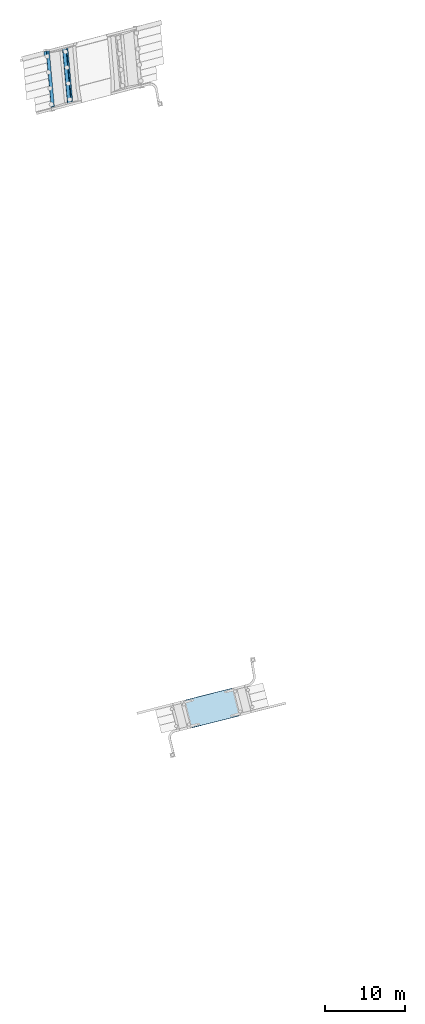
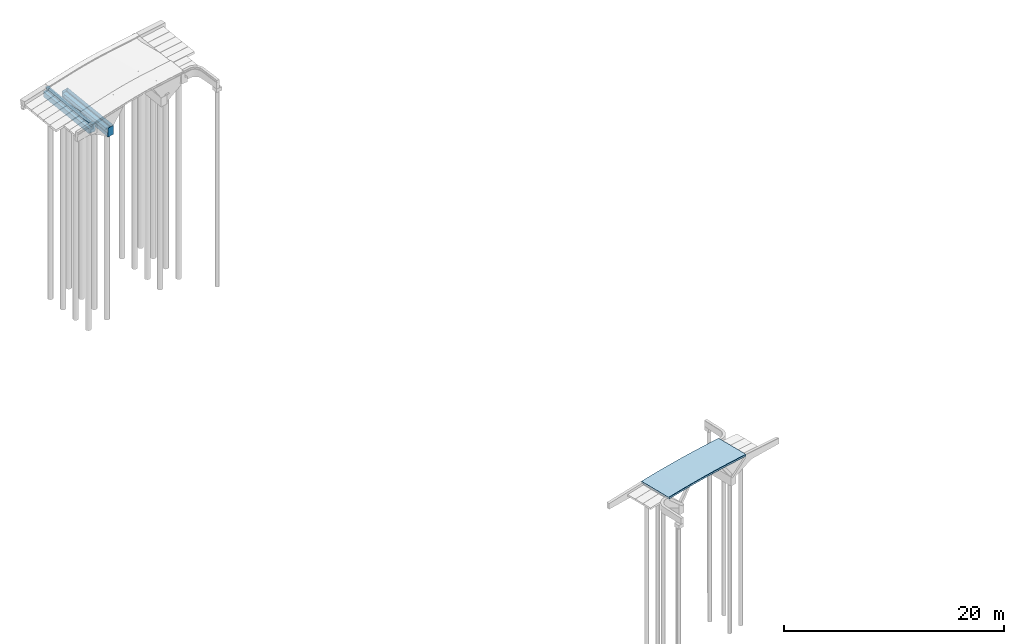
# One storey, part 7 of 15: 3 footings.
"""IFC2X3 building model written with IfcOpenShell, lengths in millimetres."""

from ifc_helpers import new_model, entity, si_unit, converted_unit, derived_unit, direction, frame, origin, place, context, subcontext, project, spatial, faceted_brep, material, element, save


model = new_model("IFC2X3")

# Units and contexts
model_context = context("Model", 3, precision=0.01, world=origin(), true_north=direction((6.12303176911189e-17, 1.0)))
body_context = subcontext(model_context, "Body", "Model", "MODEL_VIEW")
ifc_project = project(units=[si_unit("LENGTHUNIT", "METRE", prefix="MILLI"), si_unit("AREAUNIT", "SQUARE_METRE"), si_unit("VOLUMEUNIT", "CUBIC_METRE"), converted_unit("PLANEANGLEUNIT", "DEGREE", entity("IfcRatioMeasure", 0.0174532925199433), si_unit("PLANEANGLEUNIT", "RADIAN"), dimensions=[0, 0, 0, 0, 0, 0, 0]), si_unit("MASSUNIT", "GRAM", prefix="KILO"), derived_unit("MASSDENSITYUNIT", [(si_unit("MASSUNIT", "GRAM", prefix="KILO"), 1), (si_unit("LENGTHUNIT", "METRE"), -3)]), si_unit("TIMEUNIT", "SECOND"), si_unit("FREQUENCYUNIT", "HERTZ"), si_unit("THERMODYNAMICTEMPERATUREUNIT", "DEGREE_CELSIUS"), derived_unit("THERMALTRANSMITTANCEUNIT", [(si_unit("MASSUNIT", "GRAM", prefix="KILO"), 1), (si_unit("THERMODYNAMICTEMPERATUREUNIT", "KELVIN"), -1), (si_unit("TIMEUNIT", "SECOND"), -3)]), derived_unit("VOLUMETRICFLOWRATEUNIT", [(si_unit("LENGTHUNIT", "METRE"), 3), (si_unit("TIMEUNIT", "SECOND"), -1)]), si_unit("ELECTRICCURRENTUNIT", "AMPERE"), si_unit("ELECTRICVOLTAGEUNIT", "VOLT"), si_unit("POWERUNIT", "WATT"), si_unit("FORCEUNIT", "NEWTON", prefix="KILO"), si_unit("ILLUMINANCEUNIT", "LUX"), si_unit("LUMINOUSFLUXUNIT", "LUMEN"), si_unit("LUMINOUSINTENSITYUNIT", "CANDELA"), derived_unit("USERDEFINED", [(si_unit("MASSUNIT", "GRAM", prefix="KILO"), -1), (si_unit("LENGTHUNIT", "METRE"), -2), (si_unit("TIMEUNIT", "SECOND"), 3), (si_unit("LUMINOUSFLUXUNIT", "LUMEN"), 1)]), derived_unit("LINEARVELOCITYUNIT", [(si_unit("LENGTHUNIT", "METRE"), 1), (si_unit("TIMEUNIT", "SECOND"), -1)]), si_unit("PRESSUREUNIT", "PASCAL"), derived_unit("USERDEFINED", [(si_unit("LENGTHUNIT", "METRE"), -2), (si_unit("MASSUNIT", "GRAM", prefix="KILO"), 1), (si_unit("TIMEUNIT", "SECOND"), -2)])], contexts=[model_context])

# Site, building, storey
site_placement = place(None, origin())
site = spatial("IfcSite", under=ifc_project, at=site_placement, Name="Bruggen Achterburggracht Machinesloot", CompositionType="ELEMENT")
building_placement = place(site_placement, origin())
building = spatial("IfcBuilding", under=site, at=building_placement, Name="Bruggen Achterburggracht Machinesloot", CompositionType="ELEMENT")
storey_placement = place(building_placement, origin())
storey = spatial("IfcBuildingStorey", under=building, at=storey_placement, Name="00 begane grond", CompositionType="ELEMENT", Elevation=2.70716782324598e-13)

# Footings
ifc_material = material(Name="00_PBT_MAT_beton t.p.g.")
footing_1_placement = place(storey_placement, origin())
element("IfcFooting", 1, at=footing_1_placement, inside=storey, material=ifc_material, Name="319-150_brugdek 2_fietsbrug:brugdek 2_fietsbrug_vorm niet aanpasbaar", ObjectType="319-150_brugdek 2_fietsbrug:brugdek 2_fietsbrug_vorm niet aanpasbaar", PredefinedType="NOTDEFINED", context=body_context, shape_type="Brep", body=[
    faceted_brep([(-49459.3846546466, 40982.532267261, 307.449913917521), (-48596.9406026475, 37569.8221627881, 307.449913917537), (-47541.8258643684, 37836.4657985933, 260.0), (-48404.2699163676, 41249.1759030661, 260.0), (-48592.2383953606, 37550.3817159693, 302.094824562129), (-47537.1802005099, 37817.011062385, 254.647453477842), (-48589.192226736, 37536.0502241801, 287.464448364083), (-47534.2885114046, 37802.640531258, 240.024024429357), (-48588.6183151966, 37530.6677990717, 267.478982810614), (-47533.9256228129, 37797.2047774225, 220.04804885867), (-48594.1616144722, 37529.2669225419, 117.587991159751), (-47541.0515941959, 37795.403935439, 70.2282320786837), (-48596.2137391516, 37534.2757805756, 97.6025256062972), (-47543.314741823, 37800.3594647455, 50.2522565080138), (-48600.3420348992, 37548.3338022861, 82.9721494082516), (-47547.5975170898, 37814.3784471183, 35.6288274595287), (-48605.4403282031, 37567.674152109, 77.6170600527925), (-47552.7523538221, 37833.7045075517, 30.2762809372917), (-48607.8904533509, 37577.3693512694, 77.6170600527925), (-47555.2024789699, 37843.3997067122, 30.2762809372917), (-48607.5209000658, 37577.4627430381, 87.6097928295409), (-47554.727414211, 37843.5197628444, 40.2642687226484), (-48612.4211503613, 37596.8531413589, 87.6097928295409), (-47559.6276645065, 37862.9101611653, 40.2642687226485), (-48612.7907036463, 37596.7597495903, 77.6170600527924), (-47560.1027292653, 37862.790105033, 30.2762809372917), (-49460.5340047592, 40951.2986591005, 77.6170600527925), (-48407.8460303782, 41217.3290145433, 30.2762809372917), (-49460.1644514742, 40951.3920508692, 87.609792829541), (-48407.3709656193, 41217.4490706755, 40.2642687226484), (-49465.0647017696, 40970.78244919, 87.6097928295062), (-48412.2712159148, 41236.8394689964, 40.2642687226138), (-49465.4342550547, 40970.6890574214, 77.6170600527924), (-48412.7462806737, 41236.7194128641, 30.2762809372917), (-49467.8843802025, 40980.3842565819, 77.6170600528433), (-48415.1964058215, 41246.4146120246, 30.2762809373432), (-49472.5865874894, 40999.8247034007, 82.9721494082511), (-48419.8420696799, 41265.8693482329, 35.628827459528), (-49475.6327561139, 41014.1561951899, 97.6025256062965), (-48422.7337587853, 41280.2398793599, 50.252256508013), (-49476.2066676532, 41019.5386202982, 117.587991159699), (-48423.0966473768, 41285.6756331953, 70.2282320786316), (-49470.6633683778, 41020.9394968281, 267.47898281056), (-48415.970675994, 41287.4764751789, 220.048048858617), (-49468.6112436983, 41015.9306387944, 287.464448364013), (-48413.7075283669, 41282.5209458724, 240.024024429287), (-49464.4829479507, 41001.8726170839, 302.094824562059), (-48409.4247531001, 41268.5019634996, 254.647453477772), (-50514.9379112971, 40715.7778111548, 343.042276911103), (-49652.4938592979, 37303.067706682, 343.042276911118), (-49647.7350850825, 37283.6415551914, 337.685280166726), (-49644.5343727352, 37269.3491189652, 323.049692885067), (-49643.7493505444, 37264.020044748, 303.057108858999), (-49647.709319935, 37263.0192999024, 153.112728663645), (-49649.5503339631, 37268.0815088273, 133.120144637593), (-49653.5240859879, 37282.1785861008, 118.484557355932), (-49658.5658123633, 37301.5332312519, 113.12756061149), (-49661.0159375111, 37311.2284304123, 113.12756061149), (-49660.7519395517, 37311.2951467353, 123.123852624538), (-49665.6521898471, 37330.6855450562, 123.123852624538), (-49665.9161878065, 37330.6188287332, 113.12756061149), (-50513.6594889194, 40685.1577382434, 113.12756061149), (-50513.39549096, 40685.2244545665, 123.123852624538), (-50518.2957412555, 40704.6148528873, 123.123852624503), (-50518.5597392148, 40704.5481365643, 113.12756061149), (-50521.0098643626, 40714.2433357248, 113.12756061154), (-50525.7686385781, 40733.6694872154, 118.484557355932), (-50528.9693509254, 40747.9619234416, 133.120144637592), (-50529.754373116, 40753.2909976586, 153.112728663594), (-50525.7944037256, 40754.2917425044, 303.057108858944), (-50523.9533896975, 40749.2295335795, 323.049692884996), (-50519.9796376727, 40735.1324563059, 337.685280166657), (-51570.8044325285, 40448.9441882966, 366.77286552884), (-50708.3603805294, 37036.2340838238, 366.772865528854), (-50703.5450225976, 37016.8222319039, 361.414597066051), (-50700.1897206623, 37002.5688628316, 346.775535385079), (-50699.1935251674, 36997.293155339, 326.778205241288), (-50701.5696947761, 36996.6926609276, 176.798229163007), (-50703.1995355, 37001.8082365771, 156.800899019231), (-50707.0186979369, 37015.9443810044, 142.161837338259), (-50712.0038405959, 37035.3133257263, 136.803568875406), (-50714.4539657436, 37045.0085248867, 136.803568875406), (-50714.2955544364, 37045.0485578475, 146.802233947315), (-50719.1958047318, 37064.4389561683, 146.802233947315), (-50719.3542160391, 37064.3989232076, 136.803568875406), (-51567.097517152, 40418.9378327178, 136.803568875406), (-51566.9391058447, 40418.9778656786, 146.802233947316), (-51571.8393561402, 40438.3682639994, 146.80223394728), (-51571.9977674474, 40438.3282310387, 136.803568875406), (-51574.4478925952, 40448.0234301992, 136.803568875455), (-51579.263250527, 40467.435282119, 142.161837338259), (-51582.6185524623, 40481.6886511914, 156.800899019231), (-51583.6147479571, 40486.9643586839, 176.798229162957), (-51581.2385783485, 40487.5648530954, 326.778205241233), (-51579.6087376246, 40482.4492774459, 346.775535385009), (-51575.7895751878, 40468.3131330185, 361.414597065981), (-52626.8589273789, 40182.0630616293, 378.638863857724), (-51764.4148753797, 36769.3529571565, 378.638863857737), (-51759.5429236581, 36749.9554073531, 373.279959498), (-51756.0330046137, 36735.7411123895, 358.639160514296), (-51754.8255982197, 36730.5187811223, 338.639457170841), (-51755.6176860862, 36730.3186084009, 188.641682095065), (-51757.0363159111, 36735.4875602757, 168.641978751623), (-51760.7008612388, 36749.662778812, 154.001179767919), (-51765.6294101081, 36769.0460256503, 148.642275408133), (-51768.0795352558, 36778.7412248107, 148.642275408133), (-51768.0267293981, 36778.7545696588, 158.642127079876), (-51772.9269796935, 36798.1449679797, 158.642127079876), (-51772.9797855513, 36798.1316231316, 148.642275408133), (-52620.7230866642, 40152.6705326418, 148.642275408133), (-52620.6702808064, 40152.6838774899, 158.642127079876), (-52625.5705311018, 40172.0742758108, 158.642127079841), (-52625.6233369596, 40172.0609309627, 148.642275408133), (-52628.0734621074, 40181.7561301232, 148.642275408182), (-52632.945413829, 40201.1536799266, 154.001179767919), (-52636.4553328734, 40215.3679748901, 168.641978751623), (-52637.6627392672, 40220.5903061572, 188.641682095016), (-52636.8706514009, 40220.7904788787, 338.639457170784), (-52635.452021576, 40215.6215270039, 358.639160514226), (-52631.7874762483, 40201.4463084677, 373.27995949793), (-53682.9760825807, 39915.1660997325, 378.638863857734), (-52820.5320305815, 36502.4559952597, 378.638863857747), (-52815.6034817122, 36483.0727484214, 373.27995949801), (-52811.9389363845, 36468.8975298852, 358.639160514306), (-52810.5203065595, 36463.7285780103, 338.639457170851), (-52809.7282186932, 36463.9287507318, 188.641682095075), (-52810.9356250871, 36469.151081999, 168.641978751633), (-52814.4455441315, 36483.3653769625, 154.001179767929), (-52819.317495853, 36502.7629267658, 148.642275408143), (-52821.7676210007, 36512.4581259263, 148.642275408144), (-52821.8204268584, 36512.4447810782, 158.642127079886), (-52826.7206771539, 36531.8351793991, 158.642127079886), (-52826.6678712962, 36531.8485242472, 148.642275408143), (-53674.411172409, 39886.3874337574, 148.642275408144), (-53674.4639782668, 39886.3740889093, 158.642127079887), (-53679.3642285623, 39905.7644872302, 158.642127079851), (-53679.3114227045, 39905.7778320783, 148.642275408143), (-53681.7615478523, 39915.4730312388, 148.642275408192), (-53686.6900967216, 39934.8562780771, 154.001179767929), (-53690.3546420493, 39949.0314966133, 168.641978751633), (-53691.7732718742, 39954.2004484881, 188.641682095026), (-53692.5653597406, 39954.0002757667, 338.639457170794), (-53691.3579533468, 39948.7779444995, 358.639160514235), (-53687.8480343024, 39934.563649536, 373.279959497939), (-54739.030577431, 39648.2849730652, 366.772865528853), (-53876.5865254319, 36235.5748685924, 366.772865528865), (-53871.6013827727, 36216.2059238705, 361.414597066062), (-53867.7822203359, 36202.0697794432, 346.77553538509), (-53866.1523796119, 36196.9542037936, 326.778205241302), (-53863.7762100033, 36197.5546982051, 176.798229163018), (-53864.7724054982, 36202.8304056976, 156.800899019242), (-53868.1277074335, 36217.08377477, 142.161837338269), (-53872.9430653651, 36236.4956266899, 136.803568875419), (-53875.3931905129, 36246.1908258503, 136.803568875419), (-53875.5516018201, 36246.1507928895, 146.802233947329), (-53880.4518521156, 36265.5411912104, 146.802233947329), (-53880.2934408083, 36265.5812241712, 136.803568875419), (-54728.0367419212, 39620.1201336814, 136.803568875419), (-54728.1951532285, 39620.0801007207, 146.802233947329), (-54733.0954035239, 39639.4704990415, 146.802233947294), (-54732.9369922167, 39639.5105320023, 136.803568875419), (-54735.3871173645, 39649.2057311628, 136.803568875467), (-54740.3722600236, 39668.5746758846, 142.161837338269), (-54744.1914224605, 39682.710820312, 156.800899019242), (-54745.8212631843, 39687.8263959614, 176.79822916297), (-54748.197432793, 39687.22590155, 326.778205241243), (-54747.2012372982, 39681.9501940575, 346.775535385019), (-54743.8459353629, 39667.6968249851, 361.414597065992), (-55794.8970986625, 39381.451350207, 343.042276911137), (-54932.4530466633, 35968.7412457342, 343.042276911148), (-54927.4113202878, 35949.3866005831, 337.685280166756), (-54923.4375682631, 35935.2895233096, 323.049692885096), (-54921.5965542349, 35930.2273143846, 303.057108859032), (-54917.6365848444, 35931.2280592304, 153.112728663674), (-54918.4216070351, 35936.5571334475, 133.120144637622), (-54921.6223193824, 35950.8495696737, 118.484557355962), (-54926.3810935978, 35970.2757211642, 113.127560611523), (-54928.8312187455, 35979.9709203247, 113.127560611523), (-54929.0952167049, 35979.9042040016, 123.123852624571), (-54933.9954670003, 35999.2946023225, 123.123852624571), (-54933.7314690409, 35999.3613186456, 113.127560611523), (-55781.4747701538, 39353.9002281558, 113.127560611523), (-55781.7387681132, 39353.8335118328, 123.123852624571), (-55786.6390184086, 39373.2239101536, 123.123852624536), (-55786.3750204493, 39373.2906264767, 113.127560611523), (-55788.8251455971, 39382.9858256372, 113.12756061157), (-55793.8668719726, 39402.3404707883, 118.484557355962), (-55797.8406239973, 39416.4375480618, 133.120144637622), (-55799.6816380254, 39421.4997569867, 153.112728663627), (-55803.641607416, 39420.499012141, 303.057108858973), (-55802.8565852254, 39415.1699379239, 323.049692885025), (-55799.655872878, 39400.8775016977, 337.685280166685), (-56850.4503553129, 39114.6968941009, 307.449913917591), (-55988.0063033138, 35701.986789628, 307.449913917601), (-55982.9080100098, 35682.6464398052, 302.094824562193), (-55978.7797142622, 35668.5884180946, 287.464448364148), (-55976.7275895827, 35663.5795600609, 267.478982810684), (-55971.1842903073, 35664.9804365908, 117.587991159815), (-55971.7582018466, 35670.3628616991, 97.6025256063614), (-55974.8043704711, 35684.6943534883, 82.9721494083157), (-55979.5065777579, 35704.1348003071, 77.6170600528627), (-55981.9567029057, 35713.8299994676, 77.6170600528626), (-55982.3262561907, 35713.7366076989, 87.6097928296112), (-55987.2265064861, 35733.1270060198, 87.6097928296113), (-55986.8569532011, 35733.2203977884, 77.6170600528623), (-56834.600254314, 39087.7593072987, 77.6170600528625), (-56834.969807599, 39087.66591553, 87.6097928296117), (-56839.8700578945, 39107.0563138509, 87.6097928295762), (-56839.5005046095, 39107.1497056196, 77.6170600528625), (-56841.9506297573, 39116.84490478, 77.6170600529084), (-56847.0489230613, 39136.1852546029, 82.9721494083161), (-56851.1772188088, 39150.2432763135, 97.6025256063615), (-56853.2293434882, 39155.2521343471, 117.587991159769), (-56858.7726427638, 39153.8512578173, 267.478982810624), (-56858.1987312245, 39148.468832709, 287.464448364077), (-56855.1525625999, 39134.1373409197, 302.094824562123), (-57905.5650935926, 38848.0532582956, 260.0), (-57043.1210415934, 35435.3431538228, 260.0), (-57037.966204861, 35416.0170933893, 254.647453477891), (-57033.6834295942, 35401.9981110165, 240.024024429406), (-57031.420281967, 35397.04258171, 220.048048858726), (-57024.2943105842, 35398.8434236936, 70.2282320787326), (-57024.6571991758, 35404.279177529, 50.2522565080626), (-57027.5488882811, 35418.649708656, 35.6288274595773), (-57032.1945521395, 35438.1044448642, 30.2762809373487), (-57034.6446772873, 35447.7996440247, 30.2762809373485), (-57035.1197420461, 35447.6795878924, 40.2642687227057), (-57040.0199923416, 35467.0699862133, 40.2642687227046), (-57039.5449275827, 35467.1900423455, 30.2762809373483), (-57887.2882286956, 38821.7289518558, 30.2762809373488), (-57887.7632934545, 38821.6088957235, 40.2642687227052), (-57892.6635437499, 38840.9992940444, 40.2642687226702), (-57892.188478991, 38841.1193501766, 30.2762809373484), (-57894.6386041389, 38850.8145493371, 30.2762809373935), (-57899.7934408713, 38870.1406097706, 35.6288274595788), (-57904.0762161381, 38884.1595921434, 50.2522565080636), (-57906.3393637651, 38889.1151214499, 70.2282320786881), (-57913.4653351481, 38887.3142794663, 220.048048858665), (-57913.1024465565, 38881.8785256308, 240.024024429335), (-57910.2107574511, 38867.5079945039, 254.64745347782)], [[[0, 1, 2, 3]], [[1, 4, 5, 2]], [[4, 6, 7, 5]], [[6, 8, 9, 7]], [[8, 10, 11, 9]], [[10, 12, 13, 11]], [[12, 14, 15, 13]], [[14, 16, 17, 15]], [[16, 18, 19, 17]], [[18, 20, 21, 19]], [[20, 22, 23, 21]], [[22, 24, 25, 23]], [[24, 26, 27, 25]], [[26, 28, 29, 27]], [[28, 30, 31, 29]], [[30, 32, 33, 31]], [[32, 34, 35, 33]], [[34, 36, 37, 35]], [[36, 38, 39, 37]], [[38, 40, 41, 39]], [[40, 42, 43, 41]], [[42, 44, 45, 43]], [[44, 46, 47, 45]], [[46, 0, 3, 47]], [[48, 49, 1, 0]], [[49, 50, 4, 1]], [[50, 51, 6, 4]], [[51, 52, 8, 6]], [[52, 53, 10, 8]], [[53, 54, 12, 10]], [[54, 55, 14, 12]], [[55, 56, 16, 14]], [[56, 57, 18, 16]], [[57, 58, 20, 18]], [[58, 59, 22, 20]], [[59, 60, 24, 22]], [[60, 61, 26, 24]], [[61, 62, 28, 26]], [[62, 63, 30, 28]], [[63, 64, 32, 30]], [[64, 65, 34, 32]], [[65, 66, 36, 34]], [[66, 67, 38, 36]], [[67, 68, 40, 38]], [[68, 69, 42, 40]], [[69, 70, 44, 42]], [[70, 71, 46, 44]], [[71, 48, 0, 46]], [[72, 73, 49, 48]], [[73, 74, 50, 49]], [[74, 75, 51, 50]], [[75, 76, 52, 51]], [[76, 77, 53, 52]], [[77, 78, 54, 53]], [[78, 79, 55, 54]], [[79, 80, 56, 55]], [[80, 81, 57, 56]], [[81, 82, 58, 57]], [[82, 83, 59, 58]], [[83, 84, 60, 59]], [[84, 85, 61, 60]], [[85, 86, 62, 61]], [[86, 87, 63, 62]], [[87, 88, 64, 63]], [[88, 89, 65, 64]], [[89, 90, 66, 65]], [[90, 91, 67, 66]], [[91, 92, 68, 67]], [[92, 93, 69, 68]], [[93, 94, 70, 69]], [[94, 95, 71, 70]], [[95, 72, 48, 71]], [[96, 97, 73, 72]], [[97, 98, 74, 73]], [[98, 99, 75, 74]], [[99, 100, 76, 75]], [[100, 101, 77, 76]], [[101, 102, 78, 77]], [[102, 103, 79, 78]], [[103, 104, 80, 79]], [[104, 105, 81, 80]], [[105, 106, 82, 81]], [[106, 107, 83, 82]], [[107, 108, 84, 83]], [[108, 109, 85, 84]], [[109, 110, 86, 85]], [[110, 111, 87, 86]], [[111, 112, 88, 87]], [[112, 113, 89, 88]], [[113, 114, 90, 89]], [[114, 115, 91, 90]], [[115, 116, 92, 91]], [[116, 117, 93, 92]], [[117, 118, 94, 93]], [[118, 119, 95, 94]], [[119, 96, 72, 95]], [[120, 121, 97, 96]], [[121, 122, 98, 97]], [[122, 123, 99, 98]], [[123, 124, 100, 99]], [[124, 125, 101, 100]], [[125, 126, 102, 101]], [[126, 127, 103, 102]], [[127, 128, 104, 103]], [[128, 129, 105, 104]], [[129, 130, 106, 105]], [[130, 131, 107, 106]], [[131, 132, 108, 107]], [[132, 133, 109, 108]], [[133, 134, 110, 109]], [[134, 135, 111, 110]], [[135, 136, 112, 111]], [[136, 137, 113, 112]], [[137, 138, 114, 113]], [[138, 139, 115, 114]], [[139, 140, 116, 115]], [[140, 141, 117, 116]], [[141, 142, 118, 117]], [[142, 143, 119, 118]], [[143, 120, 96, 119]], [[144, 145, 121, 120]], [[145, 146, 122, 121]], [[146, 147, 123, 122]], [[147, 148, 124, 123]], [[148, 149, 125, 124]], [[149, 150, 126, 125]], [[150, 151, 127, 126]], [[151, 152, 128, 127]], [[152, 153, 129, 128]], [[153, 154, 130, 129]], [[154, 155, 131, 130]], [[155, 156, 132, 131]], [[156, 157, 133, 132]], [[157, 158, 134, 133]], [[158, 159, 135, 134]], [[159, 160, 136, 135]], [[160, 161, 137, 136]], [[161, 162, 138, 137]], [[162, 163, 139, 138]], [[163, 164, 140, 139]], [[164, 165, 141, 140]], [[165, 166, 142, 141]], [[166, 167, 143, 142]], [[167, 144, 120, 143]], [[168, 169, 145, 144]], [[169, 170, 146, 145]], [[170, 171, 147, 146]], [[171, 172, 148, 147]], [[172, 173, 149, 148]], [[173, 174, 150, 149]], [[174, 175, 151, 150]], [[175, 176, 152, 151]], [[176, 177, 153, 152]], [[177, 178, 154, 153]], [[178, 179, 155, 154]], [[179, 180, 156, 155]], [[180, 181, 157, 156]], [[181, 182, 158, 157]], [[182, 183, 159, 158]], [[183, 184, 160, 159]], [[184, 185, 161, 160]], [[185, 186, 162, 161]], [[186, 187, 163, 162]], [[187, 188, 164, 163]], [[188, 189, 165, 164]], [[189, 190, 166, 165]], [[190, 191, 167, 166]], [[191, 168, 144, 167]], [[192, 193, 169, 168]], [[193, 194, 170, 169]], [[194, 195, 171, 170]], [[195, 196, 172, 171]], [[196, 197, 173, 172]], [[197, 198, 174, 173]], [[198, 199, 175, 174]], [[199, 200, 176, 175]], [[200, 201, 177, 176]], [[201, 202, 178, 177]], [[202, 203, 179, 178]], [[203, 204, 180, 179]], [[204, 205, 181, 180]], [[205, 206, 182, 181]], [[206, 207, 183, 182]], [[207, 208, 184, 183]], [[208, 209, 185, 184]], [[209, 210, 186, 185]], [[210, 211, 187, 186]], [[211, 212, 188, 187]], [[212, 213, 189, 188]], [[213, 214, 190, 189]], [[214, 215, 191, 190]], [[215, 192, 168, 191]], [[216, 217, 193, 192]], [[217, 218, 194, 193]], [[218, 219, 195, 194]], [[219, 220, 196, 195]], [[220, 221, 197, 196]], [[221, 222, 198, 197]], [[222, 223, 199, 198]], [[223, 224, 200, 199]], [[224, 225, 201, 200]], [[225, 226, 202, 201]], [[226, 227, 203, 202]], [[227, 228, 204, 203]], [[228, 229, 205, 204]], [[229, 230, 206, 205]], [[230, 231, 207, 206]], [[231, 232, 208, 207]], [[232, 233, 209, 208]], [[233, 234, 210, 209]], [[234, 235, 211, 210]], [[235, 236, 212, 211]], [[236, 237, 213, 212]], [[237, 238, 214, 213]], [[238, 239, 215, 214]], [[239, 216, 192, 215]], [[3, 2, 5, 7, 9, 11, 13, 15, 17, 19, 21, 23, 25, 27, 29, 31, 33, 35, 37, 39, 41, 43, 45, 47]], [[239, 238, 237, 236, 235, 234, 233, 232, 231, 230, 229, 228, 227, 226, 225, 224, 223, 222, 221, 220, 219, 218, 217, 216]]]),
])
footing_2_placement = place(storey_placement, frame((-71417.0434446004, 113546.971117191, -2350.0)))
element("IfcFooting", 2, at=footing_2_placement, inside=storey, material=ifc_material, Name="16_PBT_SF_funderingsbalk enkele sponning:Brug 1_700x1000", ObjectType="16_PBT_SF_funderingsbalk enkele sponning:Brug 1_700x1000", PredefinedType="NOTDEFINED", context=body_context, shape_type="Brep", body=[
    faceted_brep([(656.271955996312, 0.0, 1000.0), (659.547042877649, 0.858833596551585, 1000.0), (1342.79335073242, 180.028090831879, 1000.0), (686.521394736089, 7399.68310641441, 1000.0), (0.0, 7219.65501558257, 1000.0), (0.628315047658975, 7212.74291482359, 1000.0), (3.28714231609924, 7183.49312676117, 1000.0), (310.973165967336, 7264.17834333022, 1000.0), (689.530618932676, 7363.44833848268, 1000.0), (1338.84398111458, 220.344890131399, 1000.0), (960.286528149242, 121.074894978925, 1000.0), (652.600504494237, 40.3896784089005, 1000.0), (654.470285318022, 19.8201989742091, 1000.0), (1342.79335073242, 180.028090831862, 0.0), (686.521394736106, 7399.6831064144, 0.0), (656.271955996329, 0.0, 0.0), (0.0, 7219.65501558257, 0.0), (656.271955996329, 0.0, 966.141008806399), (646.432348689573, 108.245628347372, 383.806032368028), (34.4640554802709, 6840.51556168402, 383.806032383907), (9.45529812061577, 7115.63717682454, 383.80603238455), (734.990732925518, 138.38302793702, 322.477679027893), (99.2414867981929, 7132.26748646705, 322.477679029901), (28.3543205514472, 7162.35894390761, 754.24766207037), (272.082069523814, 7207.50250099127, 587.769702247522), (913.1425086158, 155.189550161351, 587.769702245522), (672.747677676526, 73.3805250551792, 754.247662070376), (1094.09172440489, 183.870547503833, 754.247662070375), (449.698367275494, 7272.84896635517, 754.247662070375), (1094.74812102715, 176.649521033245, 819.821174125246), (449.041970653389, 7280.06999282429, 819.821174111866), (534.231632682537, 7295.84892807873, 761.632473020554), (1178.77283504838, 205.244062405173, 761.632473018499)], [[[0, 1, 2, 3, 4, 5, 6, 7, 8, 9, 10, 11, 12]], [[2, 13, 14, 3]], [[13, 15, 16, 14]], [[15, 17, 0, 12, 11, 18, 19, 20, 6, 5, 4, 16]], [[2, 1, 0, 17, 15, 13]], [[4, 3, 14, 16]], [[21, 22, 20, 19, 18]], [[23, 24, 25, 26]], [[22, 21, 25, 24]], [[23, 26, 27, 28]], [[28, 27, 29, 30]], [[31, 32, 9, 8]], [[30, 29, 32, 31]], [[24, 23, 28, 30, 31, 8, 7, 6, 20, 22]], [[26, 25, 21, 18, 11, 10, 9, 32, 29, 27]]]),
])
footing_3_placement = place(storey_placement, frame((-73717.1444181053, 112963.235472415, -860.0)))
element("IfcFooting", 3, at=footing_3_placement, inside=storey, material=ifc_material, Name="319-150_funderingsbalk tpv stootplaat:Brug 1_700x1100", ObjectType="319-150_funderingsbalk tpv stootplaat:Brug 1_700x1100", PredefinedType="NOTDEFINED", context=body_context, shape_type="Brep", body=[
    faceted_brep([(5.60743486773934, 7196.63851236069, 0.0), (702.733204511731, 7260.00775804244, 0.0), (1348.76020977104, 153.057558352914, 0.0), (651.634440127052, 89.6883126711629, 0.0), (0.0, 7258.32596509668, 555.0), (657.803475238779, 21.8226894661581, 555.0), (148.929436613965, 7276.90677452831, 600.0), (807.68776077, 29.8991954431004, 600.0), (298.313530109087, 7290.48589860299, 600.0), (957.071854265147, 43.4783195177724, 600.0), (961.024065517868, 0.0, 955.562451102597), (923.609685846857, 411.596002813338, 911.353838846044), (923.609685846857, 411.596002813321, 900.0), (914.000769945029, 517.303792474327, 900.0), (798.88187526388, 1783.72802069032, 763.976927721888), (320.978269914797, 7041.15084638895, 807.545120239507), (294.63785480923, 7330.92204305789, 963.802672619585), (693.163843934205, 7365.28039914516, 947.134517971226), (713.276733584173, 7144.0182785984, 827.820114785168), (1191.18039698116, 1886.59481431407, 784.254976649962), (1289.13706260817, 808.972456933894, 900.0), (1321.96726850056, 447.807000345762, 900.0), (1321.96726850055, 447.807000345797, 938.791979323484), (1357.58893631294, 55.9326404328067, 980.8823337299), (1357.58893631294, 55.932640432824, 990.99495084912), (1359.42466206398, 35.737801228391, 993.164033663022), (1359.42466206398, 35.737801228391, 983.051416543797), (1359.69069243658, 32.811198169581, 983.365756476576), (1343.03774181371, 31.440621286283, 982.204367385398), (1336.02164302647, 29.6007734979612, 991.954318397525), (1221.10901109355, 20.143194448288, 983.940226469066), (1228.12510988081, 21.9830422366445, 974.190275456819), (798.881901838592, 1783.72772834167, 763.976218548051), (798.920035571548, 1783.73147383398, 763.97881713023), (320.978211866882, 7041.1514849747, 807.542065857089), (321.016372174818, 7041.15493811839, 807.543955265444)], [[[0, 1, 2, 3]], [[4, 0, 3, 5]], [[6, 4, 5, 7]], [[8, 6, 7, 9]], [[8, 9, 10, 11, 12, 13, 14, 15, 16]], [[2, 1, 17, 18, 19, 20, 21, 22, 23, 24, 25, 26, 27]], [[12, 21, 20, 13]], [[21, 12, 11, 22]], [[1, 0, 4, 6, 8, 16, 17]], [[3, 2, 27, 28, 29, 30, 31, 10, 9, 7, 5]], [[26, 28, 27]], [[28, 26, 25, 29]], [[29, 25, 24, 30]], [[30, 24, 23, 31]], [[19, 32, 13, 20]], [[33, 19, 18, 34]], [[35, 18, 17, 16]], [[31, 23, 22, 11, 10]]]),
])

save(model, "model.ifc")
